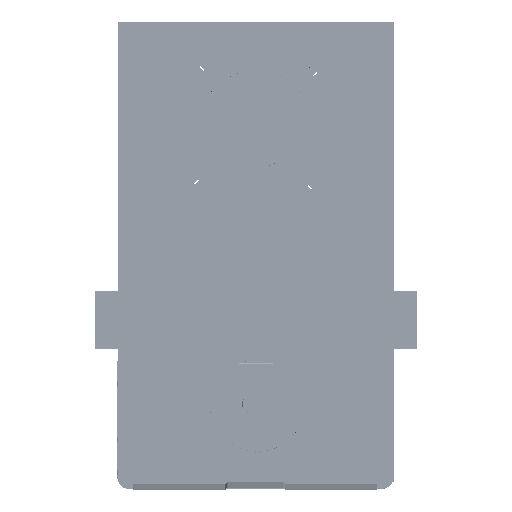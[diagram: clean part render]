
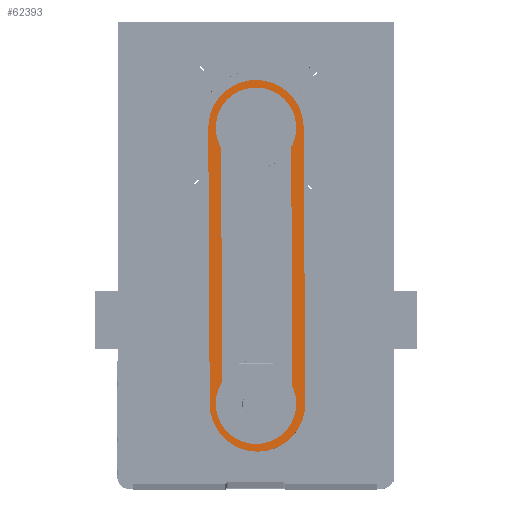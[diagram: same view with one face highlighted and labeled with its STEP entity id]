
A CAD part, top view. The second image highlights one B-rep face of the part: STEP entity #62393.
In plain terms, the highlighted planar face has unit normal (0, 0, 1).
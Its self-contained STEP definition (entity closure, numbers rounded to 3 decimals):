
#5277 = CARTESIAN_POINT ( 'NONE',  ( -15.25, 0., 20. ) ) ;
#5886 = DIRECTION ( 'NONE',  ( 0., 0., 1. ) ) ;
#6375 = CARTESIAN_POINT ( 'NONE',  ( 0.425, -15.244, 20. ) ) ;
#7197 = AXIS2_PLACEMENT_3D ( 'NONE', #145985, #5886, #145423 ) ;
#13005 = ORIENTED_EDGE ( 'NONE', *, *, #150626, .T. ) ;
#13336 = CIRCLE ( 'NONE', #104592, 15.25 ) ;
#14199 = VERTEX_POINT ( 'NONE', #48147 ) ;
#15781 = LINE ( 'NONE', #58683, #97635 ) ;
#17551 = VERTEX_POINT ( 'NONE', #40360 ) ;
#18063 = DIRECTION ( 'NONE',  ( 1., 0., 0. ) ) ;
#18604 = DIRECTION ( 'NONE',  ( 0., 0., 1. ) ) ;
#20668 = DIRECTION ( 'NONE',  ( 1., 0., 0. ) ) ;
#22717 = CARTESIAN_POINT ( 'NONE',  ( 119.422, 24.088, 20. ) ) ;
#24946 = AXIS2_PLACEMENT_3D ( 'NONE', #84368, #160815, #20668 ) ;
#25339 = DIRECTION ( 'NONE',  ( 1., 0., 0. ) ) ;
#31043 = AXIS2_PLACEMENT_3D ( 'NONE', #76352, #89192, #165679 ) ;
#34703 = EDGE_CURVE ( 'NONE', #39254, #135332, #13336, .T. ) ;
#35484 = EDGE_CURVE ( 'NONE', #17551, #134452, #156708, .T. ) ;
#37318 = CARTESIAN_POINT ( 'NONE',  ( 120., 3.346, 20. ) ) ;
#37926 = ORIENTED_EDGE ( 'NONE', *, *, #35484, .T. ) ;
#38264 = LINE ( 'NONE', #6375, #96304 ) ;
#39254 = VERTEX_POINT ( 'NONE', #72234 ) ;
#40360 = CARTESIAN_POINT ( 'NONE',  ( 120.578, -17.396, 20. ) ) ;
#41248 = CIRCLE ( 'NONE', #116200, 15.25 ) ;
#43737 = ORIENTED_EDGE ( 'NONE', *, *, #78952, .F. ) ;
#45381 = ORIENTED_EDGE ( 'NONE', *, *, #147064, .F. ) ;
#48147 = CARTESIAN_POINT ( 'NONE',  ( -20.75, 0., 20. ) ) ;
#48258 = CARTESIAN_POINT ( 'NONE',  ( -0.425, 15.244, 20. ) ) ;
#50724 = CARTESIAN_POINT ( 'NONE',  ( 0., 0., 20. ) ) ;
#51099 = VERTEX_POINT ( 'NONE', #156493 ) ;
#54327 = EDGE_LOOP ( 'NONE', ( #63940, #43737, #70045, #143503, #45381 ) ) ;
#56036 = VECTOR ( 'NONE', #80230, 1000. ) ;
#56282 = CARTESIAN_POINT ( 'NONE',  ( 0.578, -20.742, 20. ) ) ;
#58683 = CARTESIAN_POINT ( 'NONE',  ( 0.578, -20.742, 20. ) ) ;
#59174 = CIRCLE ( 'NONE', #24946, 20.75 ) ;
#60962 = DIRECTION ( 'NONE',  ( 1., 0.028, 0. ) ) ;
#62393 = ADVANCED_FACE ( 'NONE', ( #101133, #91239 ), #159355, .T. ) ;
#62996 = DIRECTION ( 'NONE',  ( 1., 0., 0. ) ) ;
#63940 = ORIENTED_EDGE ( 'NONE', *, *, #135435, .F. ) ;
#65332 = VERTEX_POINT ( 'NONE', #158464 ) ;
#67353 = EDGE_CURVE ( 'NONE', #123897, #14199, #59174, .T. ) ;
#70045 = ORIENTED_EDGE ( 'NONE', *, *, #34703, .F. ) ;
#70933 = EDGE_CURVE ( 'NONE', #72443, #17551, #15781, .T. ) ;
#72234 = CARTESIAN_POINT ( 'NONE',  ( -0.425, 15.244, 20. ) ) ;
#72443 = VERTEX_POINT ( 'NONE', #56282 ) ;
#72944 = ORIENTED_EDGE ( 'NONE', *, *, #67353, .T. ) ;
#76352 = CARTESIAN_POINT ( 'NONE',  ( 0., 0., 20. ) ) ;
#78952 = EDGE_CURVE ( 'NONE', #135332, #138983, #79355, .T. ) ;
#79355 = CIRCLE ( 'NONE', #131225, 15.25 ) ;
#80230 = DIRECTION ( 'NONE',  ( -1., -0.028, 0. ) ) ;
#84368 = CARTESIAN_POINT ( 'NONE',  ( 0., 0., 20. ) ) ;
#89192 = DIRECTION ( 'NONE',  ( 0., 0., 1. ) ) ;
#91239 = FACE_BOUND ( 'NONE', #54327, .T. ) ;
#91967 = CARTESIAN_POINT ( 'NONE',  ( -0.578, 20.742, 20. ) ) ;
#96304 = VECTOR ( 'NONE', #60962, 1000. ) ;
#97635 = VECTOR ( 'NONE', #110665, 1000. ) ;
#100189 = DIRECTION ( 'NONE',  ( 0., 0., 1. ) ) ;
#100425 = DIRECTION ( 'NONE',  ( 1., 0., 0. ) ) ;
#101133 = FACE_OUTER_BOUND ( 'NONE', #103762, .T. ) ;
#101839 = DIRECTION ( 'NONE',  ( -1., -0.028, 0. ) ) ;
#103762 = EDGE_LOOP ( 'NONE', ( #72944, #122158, #118119, #37926, #13005 ) ) ;
#104592 = AXIS2_PLACEMENT_3D ( 'NONE', #50724, #152390, #100425 ) ;
#110665 = DIRECTION ( 'NONE',  ( 1., 0.028, 0. ) ) ;
#113842 = DIRECTION ( 'NONE',  ( 0., 0., 1. ) ) ;
#116200 = AXIS2_PLACEMENT_3D ( 'NONE', #37318, #113842, #62996 ) ;
#118069 = LINE ( 'NONE', #91967, #56036 ) ;
#118119 = ORIENTED_EDGE ( 'NONE', *, *, #70933, .T. ) ;
#118600 = CARTESIAN_POINT ( 'NONE',  ( 120., 3.346, 20. ) ) ;
#119125 = CARTESIAN_POINT ( 'NONE',  ( -0.578, 20.742, 20. ) ) ;
#122158 = ORIENTED_EDGE ( 'NONE', *, *, #133476, .T. ) ;
#123897 = VERTEX_POINT ( 'NONE', #119125 ) ;
#124560 = VECTOR ( 'NONE', #101839, 1000. ) ;
#131225 = AXIS2_PLACEMENT_3D ( 'NONE', #163834, #100189, #25339 ) ;
#133476 = EDGE_CURVE ( 'NONE', #14199, #72443, #138795, .T. ) ;
#134452 = VERTEX_POINT ( 'NONE', #22717 ) ;
#135332 = VERTEX_POINT ( 'NONE', #5277 ) ;
#135435 = EDGE_CURVE ( 'NONE', #138983, #51099, #38264, .T. ) ;
#138795 = CIRCLE ( 'NONE', #31043, 20.75 ) ;
#138983 = VERTEX_POINT ( 'NONE', #141945 ) ;
#141945 = CARTESIAN_POINT ( 'NONE',  ( 0.425, -15.244, 20. ) ) ;
#143503 = ORIENTED_EDGE ( 'NONE', *, *, #157347, .F. ) ;
#145408 = AXIS2_PLACEMENT_3D ( 'NONE', #118600, #18604, #18063 ) ;
#145423 = DIRECTION ( 'NONE',  ( 1., 0., 0. ) ) ;
#145985 = CARTESIAN_POINT ( 'NONE',  ( 0., 0., 20. ) ) ;
#147064 = EDGE_CURVE ( 'NONE', #51099, #65332, #41248, .T. ) ;
#150626 = EDGE_CURVE ( 'NONE', #134452, #123897, #118069, .T. ) ;
#152390 = DIRECTION ( 'NONE',  ( 0., 0., 1. ) ) ;
#156493 = CARTESIAN_POINT ( 'NONE',  ( 120.425, -11.898, 20. ) ) ;
#156708 = CIRCLE ( 'NONE', #145408, 20.75 ) ;
#157347 = EDGE_CURVE ( 'NONE', #65332, #39254, #158506, .T. ) ;
#158464 = CARTESIAN_POINT ( 'NONE',  ( 119.575, 18.59, 20. ) ) ;
#158506 = LINE ( 'NONE', #48258, #124560 ) ;
#159355 = PLANE ( 'NONE',  #7197 ) ;
#160815 = DIRECTION ( 'NONE',  ( 0., 0., 1. ) ) ;
#163834 = CARTESIAN_POINT ( 'NONE',  ( 0., 0., 20. ) ) ;
#165679 = DIRECTION ( 'NONE',  ( 1., 0., 0. ) ) ;
